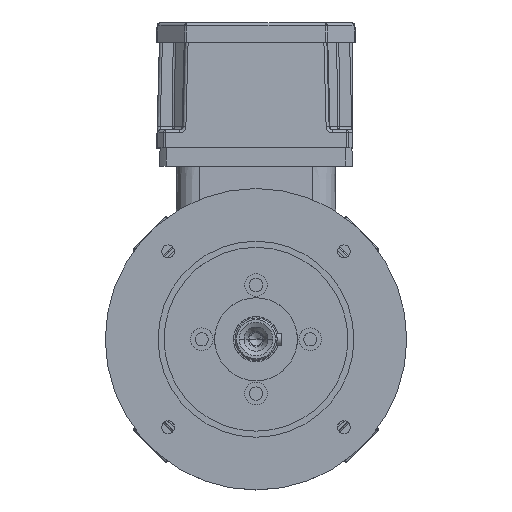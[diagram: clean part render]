
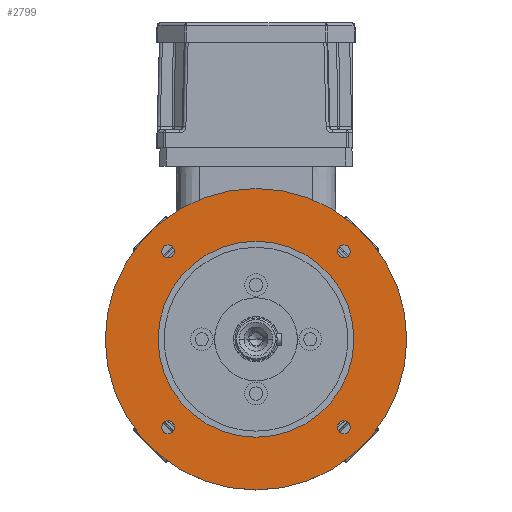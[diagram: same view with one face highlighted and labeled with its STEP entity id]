
A CAD part, top view. The second image highlights one B-rep face of the part: STEP entity #2799.
In plain terms, the highlighted planar face has unit normal (0, 0, 1).
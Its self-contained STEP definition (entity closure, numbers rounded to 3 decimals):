
#896 = EDGE_CURVE ( 'NONE', #55358, #57858, #57725, .T. ) ;
#1028 = ORIENTED_EDGE ( 'NONE', *, *, #90847, .T. ) ;
#2468 = EDGE_CURVE ( 'NONE', #122341, #78640, #128337, .T. ) ;
#2799 = ADVANCED_FACE ( 'NONE', ( #7167, #90673, #61623, #39407, #119537, #41198 ), #126605, .F. ) ;
#3907 = EDGE_CURVE ( 'NONE', #24266, #101897, #24696, .T. ) ;
#3934 = CARTESIAN_POINT ( 'NONE',  ( -54.086, -58.336, 165. ) ) ;
#5845 = DIRECTION ( 'NONE',  ( 1., 0., 0. ) ) ;
#6858 = VERTEX_POINT ( 'NONE', #106694 ) ;
#7167 = FACE_BOUND ( 'NONE', #18439, .T. ) ;
#8598 = DIRECTION ( 'NONE',  ( 0., 0., 1. ) ) ;
#9461 = DIRECTION ( 'NONE',  ( 0., 0., 1. ) ) ;
#13454 = CARTESIAN_POINT ( 'NONE',  ( 58.336, 58.336, 165. ) ) ;
#14702 = DIRECTION ( 'NONE',  ( 0., 0., 1. ) ) ;
#17399 = EDGE_LOOP ( 'NONE', ( #115325, #114149 ) ) ;
#18439 = EDGE_LOOP ( 'NONE', ( #133021, #105296 ) ) ;
#18890 = AXIS2_PLACEMENT_3D ( 'NONE', #101035, #45299, #67222 ) ;
#19148 = CIRCLE ( 'NONE', #128346, 100. ) ;
#21023 = DIRECTION ( 'NONE',  ( 0., 0., 1. ) ) ;
#22100 = DIRECTION ( 'NONE',  ( 0., 0., 1. ) ) ;
#22885 = CARTESIAN_POINT ( 'NONE',  ( 58.336, -58.336, 165. ) ) ;
#24231 = VERTEX_POINT ( 'NONE', #3934 ) ;
#24266 = VERTEX_POINT ( 'NONE', #102913 ) ;
#24696 = CIRCLE ( 'NONE', #85451, 4.25 ) ;
#25856 = VERTEX_POINT ( 'NONE', #74426 ) ;
#27223 = ORIENTED_EDGE ( 'NONE', *, *, #41132, .F. ) ;
#29776 = CIRCLE ( 'NONE', #115795, 4.25 ) ;
#30578 = CIRCLE ( 'NONE', #30775, 65. ) ;
#30775 = AXIS2_PLACEMENT_3D ( 'NONE', #68985, #14702, #48447 ) ;
#32954 = DIRECTION ( 'NONE',  ( 0., 0., 1. ) ) ;
#33552 = CARTESIAN_POINT ( 'NONE',  ( 58.336, 58.336, 165. ) ) ;
#35386 = DIRECTION ( 'NONE',  ( 1., 0., 0. ) ) ;
#35443 = DIRECTION ( 'NONE',  ( 0., 0., 1. ) ) ;
#37813 = CARTESIAN_POINT ( 'NONE',  ( 100., 0., 165. ) ) ;
#39407 = FACE_BOUND ( 'NONE', #123027, .T. ) ;
#39443 = CARTESIAN_POINT ( 'NONE',  ( 0., 0., 165. ) ) ;
#40983 = CIRCLE ( 'NONE', #90215, 4.25 ) ;
#41132 = EDGE_CURVE ( 'NONE', #78640, #122341, #30578, .T. ) ;
#41198 = FACE_OUTER_BOUND ( 'NONE', #44275, .T. ) ;
#42610 = AXIS2_PLACEMENT_3D ( 'NONE', #33552, #22100, #66285 ) ;
#42937 = CARTESIAN_POINT ( 'NONE',  ( 54.086, -58.336, 165. ) ) ;
#44275 = EDGE_LOOP ( 'NONE', ( #1028, #54418 ) ) ;
#45299 = DIRECTION ( 'NONE',  ( 0., 0., 1. ) ) ;
#45866 = CARTESIAN_POINT ( 'NONE',  ( 62.586, 58.336, 165. ) ) ;
#46180 = VERTEX_POINT ( 'NONE', #133159 ) ;
#48447 = DIRECTION ( 'NONE',  ( 1., 0., 0. ) ) ;
#54418 = ORIENTED_EDGE ( 'NONE', *, *, #70181, .T. ) ;
#55358 = VERTEX_POINT ( 'NONE', #45866 ) ;
#57725 = CIRCLE ( 'NONE', #138673, 4.25 ) ;
#57858 = VERTEX_POINT ( 'NONE', #89310 ) ;
#59053 = EDGE_CURVE ( 'NONE', #57858, #55358, #110066, .T. ) ;
#61623 = FACE_BOUND ( 'NONE', #17399, .T. ) ;
#65881 = ORIENTED_EDGE ( 'NONE', *, *, #2468, .F. ) ;
#66285 = DIRECTION ( 'NONE',  ( 1., 0., 0. ) ) ;
#67222 = DIRECTION ( 'NONE',  ( 1., 0., 0. ) ) ;
#68453 = ORIENTED_EDGE ( 'NONE', *, *, #896, .F. ) ;
#68985 = CARTESIAN_POINT ( 'NONE',  ( 0., 0., 165. ) ) ;
#70181 = EDGE_CURVE ( 'NONE', #6858, #91701, #78982, .T. ) ;
#73317 = DIRECTION ( 'NONE',  ( 1., 0., 0. ) ) ;
#74426 = CARTESIAN_POINT ( 'NONE',  ( -62.586, -58.336, 165. ) ) ;
#76075 = EDGE_CURVE ( 'NONE', #24231, #25856, #139352, .T. ) ;
#78640 = VERTEX_POINT ( 'NONE', #82833 ) ;
#78872 = VERTEX_POINT ( 'NONE', #109841 ) ;
#78982 = CIRCLE ( 'NONE', #135320, 100. ) ;
#80451 = EDGE_CURVE ( 'NONE', #101897, #24266, #90686, .T. ) ;
#82833 = CARTESIAN_POINT ( 'NONE',  ( -65., 0., 165. ) ) ;
#83010 = DIRECTION ( 'NONE',  ( 0., 0., 1. ) ) ;
#83858 = CARTESIAN_POINT ( 'NONE',  ( 0., 65., 165. ) ) ;
#85308 = DIRECTION ( 'NONE',  ( -1., 0., 0. ) ) ;
#85451 = AXIS2_PLACEMENT_3D ( 'NONE', #22885, #21023, #97163 ) ;
#89310 = CARTESIAN_POINT ( 'NONE',  ( 54.086, 58.336, 165. ) ) ;
#89641 = DIRECTION ( 'NONE',  ( 0., 0., 1. ) ) ;
#90215 = AXIS2_PLACEMENT_3D ( 'NONE', #135324, #93028, #135787 ) ;
#90673 = FACE_BOUND ( 'NONE', #133853, .T. ) ;
#90686 = CIRCLE ( 'NONE', #100585, 4.25 ) ;
#90847 = EDGE_CURVE ( 'NONE', #91701, #6858, #19148, .T. ) ;
#91591 = AXIS2_PLACEMENT_3D ( 'NONE', #139858, #9461, #73317 ) ;
#91702 = EDGE_CURVE ( 'NONE', #46180, #78872, #40983, .T. ) ;
#91701 = VERTEX_POINT ( 'NONE', #37813 ) ;
#92600 = CARTESIAN_POINT ( 'NONE',  ( 65., 0., 165. ) ) ;
#93028 = DIRECTION ( 'NONE',  ( 0., 0., 1. ) ) ;
#95249 = DIRECTION ( 'NONE',  ( 1., 0., 0. ) ) ;
#97163 = DIRECTION ( 'NONE',  ( 1., 0., 0. ) ) ;
#97329 = EDGE_CURVE ( 'NONE', #78872, #46180, #29776, .T. ) ;
#99053 = DIRECTION ( 'NONE',  ( 1., 0., 0. ) ) ;
#100585 = AXIS2_PLACEMENT_3D ( 'NONE', #124835, #83010, #5845 ) ;
#101035 = CARTESIAN_POINT ( 'NONE',  ( -58.336, -58.336, 165. ) ) ;
#101897 = VERTEX_POINT ( 'NONE', #42937 ) ;
#102881 = EDGE_CURVE ( 'NONE', #25856, #24231, #140850, .T. ) ;
#102913 = CARTESIAN_POINT ( 'NONE',  ( 62.586, -58.336, 165. ) ) ;
#105296 = ORIENTED_EDGE ( 'NONE', *, *, #91702, .F. ) ;
#106694 = CARTESIAN_POINT ( 'NONE',  ( -100., 0., 165. ) ) ;
#109841 = CARTESIAN_POINT ( 'NONE',  ( -54.086, 58.336, 165. ) ) ;
#110066 = CIRCLE ( 'NONE', #42610, 4.25 ) ;
#112024 = CARTESIAN_POINT ( 'NONE',  ( 0., 0., 165. ) ) ;
#114149 = ORIENTED_EDGE ( 'NONE', *, *, #80451, .F. ) ;
#114177 = DIRECTION ( 'NONE',  ( 0., 0., 1. ) ) ;
#115325 = ORIENTED_EDGE ( 'NONE', *, *, #3907, .F. ) ;
#115795 = AXIS2_PLACEMENT_3D ( 'NONE', #119491, #32954, #99053 ) ;
#116024 = DIRECTION ( 'NONE',  ( 1., 0., 0. ) ) ;
#116582 = CARTESIAN_POINT ( 'NONE',  ( 0., 0., 165. ) ) ;
#119491 = CARTESIAN_POINT ( 'NONE',  ( -58.336, 58.336, 165. ) ) ;
#119537 = FACE_BOUND ( 'NONE', #131243, .T. ) ;
#122341 = VERTEX_POINT ( 'NONE', #92600 ) ;
#122955 = DIRECTION ( 'NONE',  ( 1., 0., 0. ) ) ;
#123027 = EDGE_LOOP ( 'NONE', ( #68453, #138978 ) ) ;
#124835 = CARTESIAN_POINT ( 'NONE',  ( 58.336, -58.336, 165. ) ) ;
#126605 = PLANE ( 'NONE',  #138045 ) ;
#128017 = ORIENTED_EDGE ( 'NONE', *, *, #76075, .F. ) ;
#128337 = CIRCLE ( 'NONE', #130767, 65. ) ;
#128346 = AXIS2_PLACEMENT_3D ( 'NONE', #112024, #35443, #122955 ) ;
#129554 = ORIENTED_EDGE ( 'NONE', *, *, #102881, .F. ) ;
#130767 = AXIS2_PLACEMENT_3D ( 'NONE', #116582, #8598, #95249 ) ;
#131243 = EDGE_LOOP ( 'NONE', ( #65881, #27223 ) ) ;
#133021 = ORIENTED_EDGE ( 'NONE', *, *, #97329, .F. ) ;
#133159 = CARTESIAN_POINT ( 'NONE',  ( -62.586, 58.336, 165. ) ) ;
#133853 = EDGE_LOOP ( 'NONE', ( #128017, #129554 ) ) ;
#135320 = AXIS2_PLACEMENT_3D ( 'NONE', #39443, #114177, #116024 ) ;
#135324 = CARTESIAN_POINT ( 'NONE',  ( -58.336, 58.336, 165. ) ) ;
#135787 = DIRECTION ( 'NONE',  ( 1., 0., 0. ) ) ;
#138045 = AXIS2_PLACEMENT_3D ( 'NONE', #83858, #138460, #85308 ) ;
#138460 = DIRECTION ( 'NONE',  ( 0., 0., -1. ) ) ;
#138673 = AXIS2_PLACEMENT_3D ( 'NONE', #13454, #89641, #35386 ) ;
#138978 = ORIENTED_EDGE ( 'NONE', *, *, #59053, .F. ) ;
#139352 = CIRCLE ( 'NONE', #18890, 4.25 ) ;
#139858 = CARTESIAN_POINT ( 'NONE',  ( -58.336, -58.336, 165. ) ) ;
#140850 = CIRCLE ( 'NONE', #91591, 4.25 ) ;
